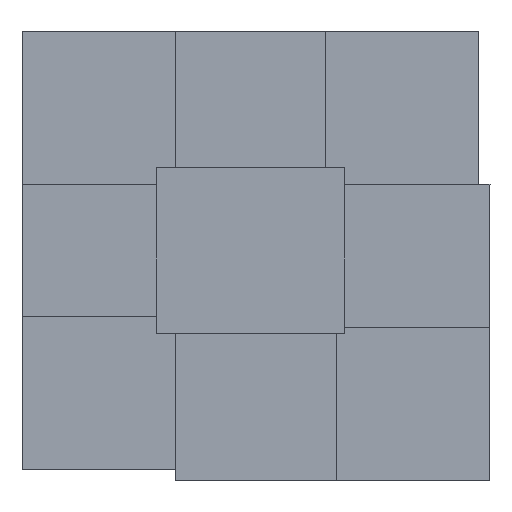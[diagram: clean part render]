
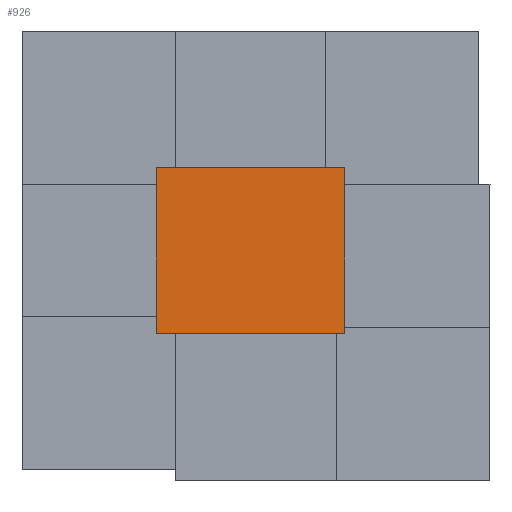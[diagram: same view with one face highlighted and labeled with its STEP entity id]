
A CAD part, left-side view. The second image highlights one B-rep face of the part: STEP entity #926.
In plain terms, the highlighted planar face has unit normal (-1, 0, 0).
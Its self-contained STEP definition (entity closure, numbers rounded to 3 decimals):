
#808=CARTESIAN_POINT('Line Origine',(0.,0.,54.)) ;
#812=CARTESIAN_POINT('Vertex',(0.,0.,0.)) ;
#814=CARTESIAN_POINT('Vertex',(0.,0.,108.)) ;
#883=CARTESIAN_POINT('Vertex',(0.,123.,0.)) ;
#886=CARTESIAN_POINT('Line Origine',(0.,123.,54.)) ;
#890=CARTESIAN_POINT('Vertex',(0.,123.,108.)) ;
#905=CARTESIAN_POINT('Axis2P3D Location',(0.,123.,0.)) ;
#910=CARTESIAN_POINT('Line Origine',(0.,61.5,0.)) ;
#915=CARTESIAN_POINT('Line Origine',(0.,61.5,108.)) ;
#809=DIRECTION('Vector Direction',(0.,0.,1.)) ;
#887=DIRECTION('Vector Direction',(0.,0.,1.)) ;
#906=DIRECTION('Axis2P3D Direction',(-1.,0.,0.)) ;
#907=DIRECTION('Axis2P3D XDirection',(0.,-1.,0.)) ;
#911=DIRECTION('Vector Direction',(0.,-1.,0.)) ;
#916=DIRECTION('Vector Direction',(0.,-1.,0.)) ;
#908=AXIS2_PLACEMENT_3D('Plane Axis2P3D',#905,#906,#907) ;
#921=ORIENTED_EDGE('',*,*,#892,.F.) ;
#922=ORIENTED_EDGE('',*,*,#914,.T.) ;
#923=ORIENTED_EDGE('',*,*,#816,.T.) ;
#924=ORIENTED_EDGE('',*,*,#919,.F.) ;
#810=VECTOR('Line Direction',#809,1.) ;
#888=VECTOR('Line Direction',#887,1.) ;
#912=VECTOR('Line Direction',#911,1.) ;
#917=VECTOR('Line Direction',#916,1.) ;
#926=ADVANCED_FACE('Body.2-molde-superior',(#925),#909,.T.) ;
#816=EDGE_CURVE('',#813,#815,#811,.T.) ;
#892=EDGE_CURVE('',#884,#891,#889,.T.) ;
#914=EDGE_CURVE('',#884,#813,#913,.T.) ;
#919=EDGE_CURVE('',#891,#815,#918,.T.) ;
#920=EDGE_LOOP('',(#921,#922,#923,#924)) ;
#925=FACE_OUTER_BOUND('',#920,.T.) ;
#811=LINE('Line',#808,#810) ;
#889=LINE('Line',#886,#888) ;
#913=LINE('Line',#910,#912) ;
#918=LINE('Line',#915,#917) ;
#909=PLANE('',#908) ;
#813=VERTEX_POINT('',#812) ;
#815=VERTEX_POINT('',#814) ;
#884=VERTEX_POINT('',#883) ;
#891=VERTEX_POINT('',#890) ;
